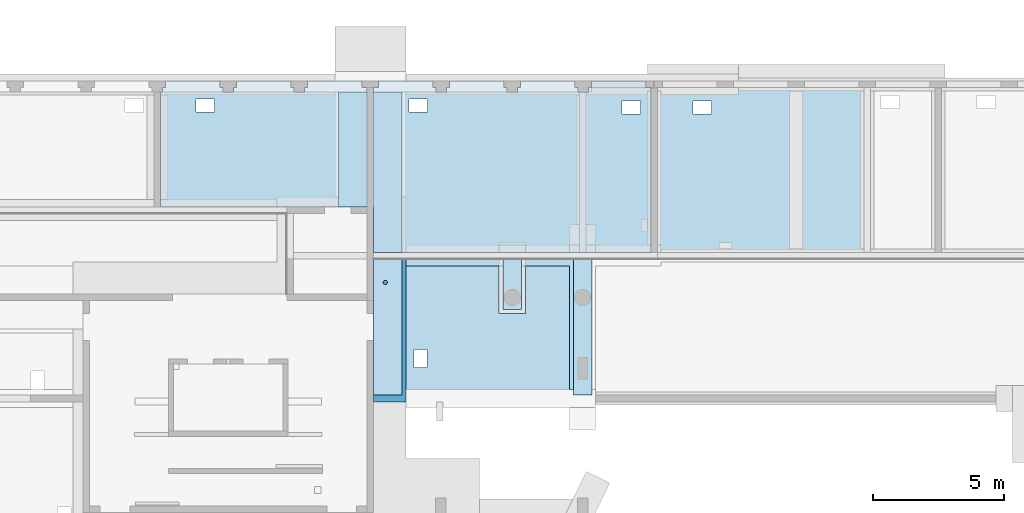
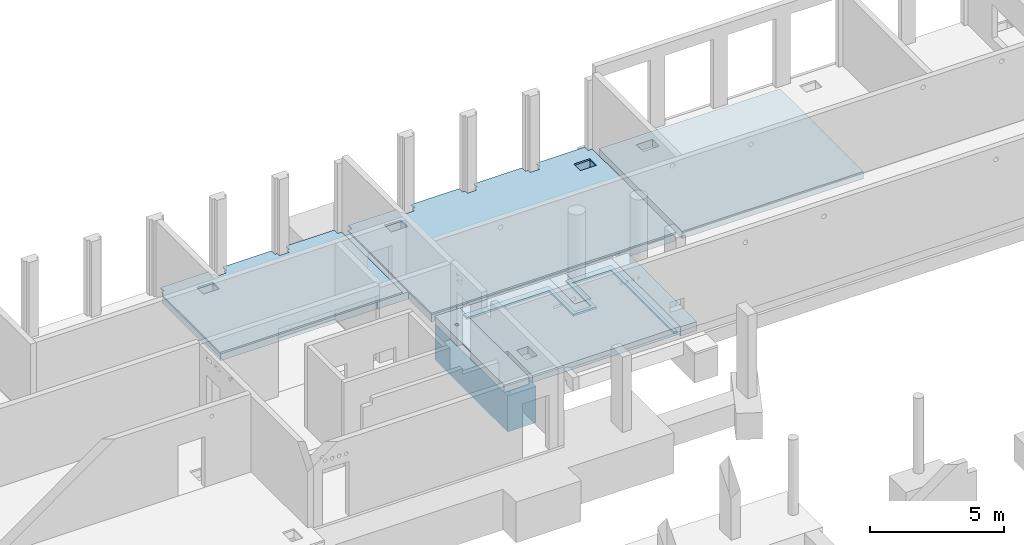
# One storey, part 26 of 60: 13 slabs, 46 openings.
"""IFC2X3 building model written with IfcOpenShell, lengths in millimetres."""

from ifc_helpers import new_model, entity, si_unit, converted_unit, derived_unit, direction, frame, frame_2d, origin, origin_2d_with_axis, place, context, subcontext, project, spatial, polyline, rectangle, circle, outline, extrude, material, layer, layer_set, layer_usage, element, save


model = new_model("IFC2X3")

# Units and contexts
model_context = context("Model", 3, precision=0.01, world=origin(), true_north=direction((6.12303176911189e-17, 1.0)))
body_context = subcontext(model_context, "Body", "Model", "MODEL_VIEW")
ifc_project = project(units=[si_unit("LENGTHUNIT", "METRE", prefix="MILLI"), si_unit("AREAUNIT", "SQUARE_METRE"), si_unit("VOLUMEUNIT", "CUBIC_METRE"), converted_unit("PLANEANGLEUNIT", "DEGREE", entity("IfcRatioMeasure", 0.0174532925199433), si_unit("PLANEANGLEUNIT", "RADIAN"), dimensions=[0, 0, 0, 0, 0, 0, 0]), si_unit("MASSUNIT", "GRAM", prefix="KILO"), derived_unit("MASSDENSITYUNIT", [(si_unit("MASSUNIT", "GRAM", prefix="KILO"), 1), (si_unit("LENGTHUNIT", "METRE"), -3)]), si_unit("TIMEUNIT", "SECOND"), si_unit("FREQUENCYUNIT", "HERTZ"), si_unit("THERMODYNAMICTEMPERATUREUNIT", "DEGREE_CELSIUS"), derived_unit("THERMALTRANSMITTANCEUNIT", [(si_unit("MASSUNIT", "GRAM", prefix="KILO"), 1), (si_unit("THERMODYNAMICTEMPERATUREUNIT", "KELVIN"), -1), (si_unit("TIMEUNIT", "SECOND"), -3)]), derived_unit("VOLUMETRICFLOWRATEUNIT", [(si_unit("LENGTHUNIT", "METRE"), 3), (si_unit("TIMEUNIT", "SECOND"), -1)]), si_unit("ELECTRICCURRENTUNIT", "AMPERE"), si_unit("ELECTRICVOLTAGEUNIT", "VOLT"), si_unit("POWERUNIT", "WATT"), si_unit("FORCEUNIT", "NEWTON", prefix="KILO"), si_unit("ILLUMINANCEUNIT", "LUX"), si_unit("LUMINOUSFLUXUNIT", "LUMEN"), si_unit("LUMINOUSINTENSITYUNIT", "CANDELA"), derived_unit("USERDEFINED", [(si_unit("MASSUNIT", "GRAM", prefix="KILO"), -1), (si_unit("LENGTHUNIT", "METRE"), -2), (si_unit("TIMEUNIT", "SECOND"), 3), (si_unit("LUMINOUSFLUXUNIT", "LUMEN"), 1)]), derived_unit("LINEARVELOCITYUNIT", [(si_unit("LENGTHUNIT", "METRE"), 1), (si_unit("TIMEUNIT", "SECOND"), -1)]), si_unit("PRESSUREUNIT", "PASCAL"), derived_unit("USERDEFINED", [(si_unit("LENGTHUNIT", "METRE"), -2), (si_unit("MASSUNIT", "GRAM", prefix="KILO"), 1), (si_unit("TIMEUNIT", "SECOND"), -2)])], contexts=[model_context])

# Site, building, storey
site_placement = place(None, origin())
site = spatial("IfcSite", under=ifc_project, at=site_placement, Name="Default", CompositionType="ELEMENT")
building_placement = place(site_placement, origin())
building = spatial("IfcBuilding", under=site, at=building_placement, Name="niet gebruiken", CompositionType="ELEMENT")
storey_placement = place(building_placement, origin())
storey = spatial("IfcBuildingStorey", under=building, at=storey_placement, Name="00 begane grond", CompositionType="ELEMENT", Elevation=0.0)

# Slab, openings
ifc_material_1 = material(Name="NLRS_f2_beton ihwg")
ifc_layer_1 = layer(ifc_material_1, 70.0)
ifc_layer_set_1 = layer_set([ifc_layer_1], Name="Floor:NLRS_23.21_FL_druklaag d=70_gen")
ifc_layer_usage_1 = layer_usage(ifc_layer_set_1, "AXIS3", "POSITIVE", 0.0)
slab_1_placement = place(storey_placement, frame((8180.0, 45156.0, -160.0)))
slab_1 = element("IfcSlab", 1, at=slab_1_placement, inside=storey, material=ifc_layer_usage_1, Name="Floor:NLRS_23.21_FL_druklaag d=70_gen:9", ObjectType="Floor:NLRS_23.21_FL_druklaag d=70_gen", PredefinedType="FLOOR", context=body_context, shape_type="SweptSolid", body=[
    extrude(outline(polyline([(22722.500000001, 3640.0), (22722.500000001, 3800.0), (22617.500000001, 3800.0), (22617.500000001, 4050.0), (20537.500000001, 4050.0), (20537.500000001, 3800.0), (20432.500000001, 3800.0), (20432.500000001, 3640.0), (20022.500000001, 3640.0), (20022.500000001, 3800.0), (19917.500000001, 3800.0), (19917.500000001, 4050.0), (17837.500000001, 4050.0), (17837.500000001, 3800.0), (17732.500000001, 3800.0), (17732.500000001, 3640.0), (17322.500000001, 3640.0), (17322.500000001, 3800.0), (17217.500000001, 3800.0), (17217.500000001, 4050.0), (15137.500000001, 4050.0), (15137.500000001, 3800.0), (14952.500000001, 3800.0), (14952.500000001, -730.0), (22802.4999999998, -730.0), (22802.4999999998, 3640.0), (22722.500000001, 3640.0)])), frame((55247.4999999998, 4050.0, 70.0), z_axis=(0.0, 0.0, -1.0), x_axis=(-1.0, 0.0, 0.0)), (0.0, 0.0, 1.0), 70.0),
])
placement_1 = place(storey_placement, frame((8180.0, 45156.0, -160.0)))
placement_2 = place(placement_1, origin())
element("IfcOpeningElement", 2, at=placement_2, cuts=slab_1, ObjectType="Opening", context=body_context, shape_type="SweptSolid", body=[
    extrude(rectangle(XDim=700.000000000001, YDim=499.999999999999, at=origin_2d_with_axis()), frame((1750.0, 7302.50000000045, -380.0), z_axis=(0.0, 0.0, 1.0), x_axis=(-1.0, 0.0, 0.0)), (0.0, 0.0, 1.0), 450.0),
])
placement_3 = place(placement_1, origin())
element("IfcOpeningElement", 3, at=placement_3, cuts=slab_1, ObjectType="Opening", context=body_context, shape_type="SweptSolid", body=[
    extrude(rectangle(XDim=700.000000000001, YDim=499.999999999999, at=origin_2d_with_axis()), frame((4450.0, 7302.50000000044, -380.0), z_axis=(0.0, 0.0, 1.0), x_axis=(-1.0, 0.0, 0.0)), (0.0, 0.0, 1.0), 450.0),
])
placement_4 = place(placement_1, origin())
element("IfcOpeningElement", 4, at=placement_4, cuts=slab_1, ObjectType="Opening", context=body_context, shape_type="SweptSolid", body=[
    extrude(rectangle(XDim=700.000000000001, YDim=499.999999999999, at=origin_2d_with_axis()), frame((12550.0, 7302.50000000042, -380.0), z_axis=(0.0, 0.0, 1.0), x_axis=(-1.0, 0.0, 0.0)), (0.0, 0.0, 1.0), 450.0),
])
placement_5 = place(placement_1, origin())
element("IfcOpeningElement", 5, at=placement_5, cuts=slab_1, ObjectType="Opening", context=body_context, shape_type="SweptSolid", body=[
    extrude(rectangle(XDim=700.000000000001, YDim=499.999999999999, at=origin_2d_with_axis()), frame((15250.0, 7302.50000000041, -380.0), z_axis=(0.0, 0.0, 1.0), x_axis=(-1.0, 0.0, 0.0)), (0.0, 0.0, 1.0), 450.0),
])
placement_6 = place(placement_1, origin())
element("IfcOpeningElement", 6, at=placement_6, cuts=slab_1, ObjectType="Opening", context=body_context, shape_type="SweptSolid", body=[
    extrude(rectangle(XDim=700.000000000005, YDim=499.999999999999, at=origin_2d_with_axis()), frame((42250.0, 7175.0, -380.0), z_axis=(0.0, 0.0, 1.0), x_axis=(-1.0, 0.0, 0.0)), (0.0, 0.0, 1.0), 450.0),
])
placement_7 = place(placement_1, origin())
element("IfcOpeningElement", 7, at=placement_7, cuts=slab_1, ObjectType="Opening", context=body_context, shape_type="SweptSolid", body=[
    extrude(rectangle(XDim=700.000000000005, YDim=499.999999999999, at=origin_2d_with_axis()), frame((50350.0, 7102.50000000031, -380.0), z_axis=(0.0, 0.0, 1.0), x_axis=(-1.0, 0.0, 0.0)), (0.0, 0.0, 1.0), 450.0),
])
placement_8 = place(placement_1, origin())
element("IfcOpeningElement", 8, at=placement_8, cuts=slab_1, ObjectType="Opening", context=body_context, shape_type="SweptSolid", body=[
    extrude(rectangle(XDim=699.999999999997, YDim=499.999999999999, at=origin_2d_with_axis()), frame((53050.0, 7102.50000000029, -380.0), z_axis=(0.0, 0.0, 1.0), x_axis=(-1.0, 0.0, 0.0)), (0.0, 0.0, 1.0), 450.0),
])
placement_9 = place(placement_1, origin())
element("IfcOpeningElement", 9, at=placement_9, cuts=slab_1, ObjectType="Opening", context=body_context, shape_type="SweptSolid", body=[
    extrude(rectangle(XDim=699.999999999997, YDim=499.999999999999, at=origin_2d_with_axis()), frame((60190.0, 7302.50000000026, -380.0), z_axis=(0.0, 0.0, 1.0), x_axis=(-1.0, 0.0, 0.0)), (0.0, 0.0, 1.0), 450.0),
])
placement_10 = place(placement_1, origin())
element("IfcOpeningElement", 10, at=placement_10, cuts=slab_1, ObjectType="Opening", context=body_context, shape_type="SweptSolid", body=[
    extrude(rectangle(XDim=700.000000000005, YDim=499.999999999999, at=origin_2d_with_axis()), frame((63850.0, 7302.50000000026, -380.0), z_axis=(0.0, 0.0, 1.0), x_axis=(-1.0, 0.0, 0.0)), (0.0, 0.0, 1.0), 450.0),
])
placement_11 = place(placement_1, origin())
element("IfcOpeningElement", 11, at=placement_11, cuts=slab_1, ObjectType="Opening", context=body_context, shape_type="SweptSolid", body=[
    extrude(rectangle(XDim=699.999999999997, YDim=499.999999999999, at=origin_2d_with_axis()), frame((90850.0, 7155.0, -380.0), z_axis=(0.0, 0.0, 1.0), x_axis=(-1.0, 0.0, 0.0)), (0.0, 0.0, 1.0), 450.0),
])
placement_12 = place(placement_1, origin())
element("IfcOpeningElement", 12, at=placement_12, cuts=slab_1, ObjectType="Opening", context=body_context, shape_type="SweptSolid", body=[
    extrude(rectangle(XDim=699.999999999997, YDim=499.999999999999, at=origin_2d_with_axis()), frame((97990.0, 7155.0, -380.0), z_axis=(0.0, 0.0, 1.0), x_axis=(-1.0, 0.0, 0.0)), (0.0, 0.0, 1.0), 450.0),
])
placement_13 = place(placement_1, origin())
element("IfcOpeningElement", 13, at=placement_13, cuts=slab_1, ObjectType="Opening", context=body_context, shape_type="SweptSolid", body=[
    extrude(rectangle(XDim=699.999999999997, YDim=499.999999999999, at=origin_2d_with_axis()), frame((101650.0, 7302.50000000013, -380.0), z_axis=(0.0, 0.0, 1.0), x_axis=(-1.0, 0.0, 0.0)), (0.0, 0.0, 1.0), 450.0),
])
placement_14 = place(placement_1, origin())
element("IfcOpeningElement", 14, at=placement_14, cuts=slab_1, ObjectType="Opening", context=body_context, shape_type="SweptSolid", body=[
    extrude(rectangle(XDim=699.999999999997, YDim=499.999999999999, at=origin_2d_with_axis()), frame((109750.0, 7302.50000000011, -380.0), z_axis=(0.0, 0.0, 1.0), x_axis=(-1.0, 0.0, 0.0)), (0.0, 0.0, 1.0), 450.0),
])
placement_15 = place(placement_1, origin())
element("IfcOpeningElement", 15, at=placement_15, cuts=slab_1, ObjectType="Opening", context=body_context, shape_type="SweptSolid", body=[
    extrude(rectangle(XDim=699.999999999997, YDim=499.999999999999, at=origin_2d_with_axis()), frame((112450.0, 7302.5000000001, -380.0), z_axis=(0.0, 0.0, 1.0), x_axis=(-1.0, 0.0, 0.0)), (0.0, 0.0, 1.0), 450.0),
])
placement_16 = place(placement_1, origin())
element("IfcOpeningElement", 16, at=placement_16, cuts=slab_1, ObjectType="Opening", context=body_context, shape_type="SweptSolid", body=[
    extrude(rectangle(XDim=700.000000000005, YDim=499.999999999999, at=origin_2d_with_axis()), frame((31450.0, 7175.0, -380.0), z_axis=(0.0, 0.0, 1.0), x_axis=(-1.0, 0.0, 0.0)), (0.0, 0.0, 1.0), 450.0),
])
placement_17 = place(placement_1, origin())
element("IfcOpeningElement", 17, at=placement_17, cuts=slab_1, ObjectType="Opening", context=body_context, shape_type="SweptSolid", body=[
    extrude(rectangle(XDim=700.000000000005, YDim=499.999999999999, at=origin_2d_with_axis()), frame((34150.0, 7175.0, -380.0), z_axis=(0.0, 0.0, 1.0), x_axis=(-1.0, 0.0, 0.0)), (0.0, 0.0, 1.0), 450.0),
])
placement_18 = place(placement_1, origin())
element("IfcOpeningElement", 18, at=placement_18, cuts=slab_1, ObjectType="Opening", context=body_context, shape_type="SweptSolid", body=[
    extrude(rectangle(XDim=699.999999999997, YDim=499.999999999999, at=origin_2d_with_axis()), frame((82750.0, 7175.0, -380.0), z_axis=(0.0, 0.0, 1.0), x_axis=(-1.0, 0.0, 0.0)), (0.0, 0.0, 1.0), 450.0),
])
placement_19 = place(placement_1, origin())
element("IfcOpeningElement", 19, at=placement_19, cuts=slab_1, ObjectType="Opening", context=body_context, shape_type="SweptSolid", body=[
    extrude(rectangle(XDim=699.999999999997, YDim=499.999999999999, at=origin_2d_with_axis()), frame((80050.0, 7175.0, -380.0), z_axis=(0.0, 0.0, 1.0), x_axis=(-1.0, 0.0, 0.0)), (0.0, 0.0, 1.0), 450.0),
])
placement_20 = place(placement_1, origin())
element("IfcOpeningElement", 20, at=placement_20, cuts=slab_1, ObjectType="Opening", context=body_context, shape_type="SweptSolid", body=[
    extrude(rectangle(XDim=700.000000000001, YDim=499.999999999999, at=origin_2d_with_axis()), frame((19739.8230847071, 7129.78918001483, -380.0), z_axis=(0.0, 0.0, 1.0), x_axis=(-1.0, 0.0, 0.0)), (0.0, 0.0, 1.0), 450.0),
])

slab_2_placement = place(storey_placement, frame((8180.0, 45156.0, -160.0)))
slab_2 = element("IfcSlab", 21, at=slab_2_placement, inside=storey, material=ifc_layer_usage_1, Name="Floor:NLRS_23.21_FL_druklaag d=70_gen:10", ObjectType="Floor:NLRS_23.21_FL_druklaag d=70_gen", PredefinedType="FLOOR", context=body_context, shape_type="SweptSolid", body=[
    extrude(outline(polyline([(14517.500000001, 3800.0), (14517.500000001, 4050.0), (12437.500000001, 4050.0), (12437.500000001, 3800.0), (12332.5000000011, 3800.0), (12332.5000000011, 3640.0), (11922.500000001, 3640.0), (11922.500000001, 3800.0), (11817.500000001, 3800.0), (11817.500000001, 4050.0), (9737.50000000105, 4050.0), (9737.50000000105, 3800.0), (9632.50000000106, 3800.0), (9632.50000000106, 3640.0), (9222.50000000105, 3640.0), (9222.50000000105, 3800.0), (9117.50000000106, 3800.0), (9117.50000000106, 4050.0), (7037.50000000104, 4050.0), (7037.50000000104, 3800.0), (6932.50000000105, 3800.0), (6932.50000000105, 3640.0), (6522.50000000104, 3640.0), (6522.50000000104, 3800.0), (6417.50000000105, 3800.0), (6417.50000000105, 4050.0), (4337.50000000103, 4050.0), (4337.50000000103, 3800.0), (4152.50000000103, 3800.0), (4152.50000000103, -2460.0), (14702.500000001, -2460.0), (14702.500000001, 3800.0), (14517.500000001, 3800.0)])), frame((55247.4999999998, 4050.0, 70.0), z_axis=(0.0, 0.0, -1.0), x_axis=(-1.0, 0.0, 0.0)), (0.0, 0.0, 1.0), 70.0),
])
element("IfcOpeningElement", 22, at=placement_2, cuts=slab_2, ObjectType="Opening", context=body_context, shape_type="SweptSolid", body=[
    extrude(rectangle(XDim=700.000000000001, YDim=499.999999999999, at=origin_2d_with_axis()), frame((1750.0, 7302.50000000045, -380.0), z_axis=(0.0, 0.0, 1.0), x_axis=(-1.0, 0.0, 0.0)), (0.0, 0.0, 1.0), 450.0),
])
element("IfcOpeningElement", 23, at=placement_3, cuts=slab_2, ObjectType="Opening", context=body_context, shape_type="SweptSolid", body=[
    extrude(rectangle(XDim=700.000000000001, YDim=499.999999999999, at=origin_2d_with_axis()), frame((4450.0, 7302.50000000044, -380.0), z_axis=(0.0, 0.0, 1.0), x_axis=(-1.0, 0.0, 0.0)), (0.0, 0.0, 1.0), 450.0),
])
element("IfcOpeningElement", 24, at=placement_4, cuts=slab_2, ObjectType="Opening", context=body_context, shape_type="SweptSolid", body=[
    extrude(rectangle(XDim=700.000000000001, YDim=499.999999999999, at=origin_2d_with_axis()), frame((12550.0, 7302.50000000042, -380.0), z_axis=(0.0, 0.0, 1.0), x_axis=(-1.0, 0.0, 0.0)), (0.0, 0.0, 1.0), 450.0),
])
element("IfcOpeningElement", 25, at=placement_5, cuts=slab_2, ObjectType="Opening", context=body_context, shape_type="SweptSolid", body=[
    extrude(rectangle(XDim=700.000000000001, YDim=499.999999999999, at=origin_2d_with_axis()), frame((15250.0, 7302.50000000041, -380.0), z_axis=(0.0, 0.0, 1.0), x_axis=(-1.0, 0.0, 0.0)), (0.0, 0.0, 1.0), 450.0),
])
element("IfcOpeningElement", 26, at=placement_6, cuts=slab_2, ObjectType="Opening", context=body_context, shape_type="SweptSolid", body=[
    extrude(rectangle(XDim=700.000000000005, YDim=499.999999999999, at=origin_2d_with_axis()), frame((42250.0, 7175.0, -380.0), z_axis=(0.0, 0.0, 1.0), x_axis=(-1.0, 0.0, 0.0)), (0.0, 0.0, 1.0), 450.0),
])
element("IfcOpeningElement", 27, at=placement_7, cuts=slab_2, ObjectType="Opening", context=body_context, shape_type="SweptSolid", body=[
    extrude(rectangle(XDim=700.000000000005, YDim=499.999999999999, at=origin_2d_with_axis()), frame((50350.0, 7102.50000000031, -380.0), z_axis=(0.0, 0.0, 1.0), x_axis=(-1.0, 0.0, 0.0)), (0.0, 0.0, 1.0), 450.0),
])
element("IfcOpeningElement", 28, at=placement_8, cuts=slab_2, ObjectType="Opening", context=body_context, shape_type="SweptSolid", body=[
    extrude(rectangle(XDim=699.999999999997, YDim=499.999999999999, at=origin_2d_with_axis()), frame((53050.0, 7102.50000000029, -380.0), z_axis=(0.0, 0.0, 1.0), x_axis=(-1.0, 0.0, 0.0)), (0.0, 0.0, 1.0), 450.0),
])
element("IfcOpeningElement", 29, at=placement_9, cuts=slab_2, ObjectType="Opening", context=body_context, shape_type="SweptSolid", body=[
    extrude(rectangle(XDim=699.999999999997, YDim=499.999999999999, at=origin_2d_with_axis()), frame((60190.0, 7302.50000000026, -380.0), z_axis=(0.0, 0.0, 1.0), x_axis=(-1.0, 0.0, 0.0)), (0.0, 0.0, 1.0), 450.0),
])
element("IfcOpeningElement", 30, at=placement_10, cuts=slab_2, ObjectType="Opening", context=body_context, shape_type="SweptSolid", body=[
    extrude(rectangle(XDim=700.000000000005, YDim=499.999999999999, at=origin_2d_with_axis()), frame((63850.0, 7302.50000000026, -380.0), z_axis=(0.0, 0.0, 1.0), x_axis=(-1.0, 0.0, 0.0)), (0.0, 0.0, 1.0), 450.0),
])
element("IfcOpeningElement", 31, at=placement_11, cuts=slab_2, ObjectType="Opening", context=body_context, shape_type="SweptSolid", body=[
    extrude(rectangle(XDim=699.999999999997, YDim=499.999999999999, at=origin_2d_with_axis()), frame((90850.0, 7155.0, -380.0), z_axis=(0.0, 0.0, 1.0), x_axis=(-1.0, 0.0, 0.0)), (0.0, 0.0, 1.0), 450.0),
])
element("IfcOpeningElement", 32, at=placement_12, cuts=slab_2, ObjectType="Opening", context=body_context, shape_type="SweptSolid", body=[
    extrude(rectangle(XDim=699.999999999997, YDim=499.999999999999, at=origin_2d_with_axis()), frame((97990.0, 7155.0, -380.0), z_axis=(0.0, 0.0, 1.0), x_axis=(-1.0, 0.0, 0.0)), (0.0, 0.0, 1.0), 450.0),
])
element("IfcOpeningElement", 33, at=placement_13, cuts=slab_2, ObjectType="Opening", context=body_context, shape_type="SweptSolid", body=[
    extrude(rectangle(XDim=699.999999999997, YDim=499.999999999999, at=origin_2d_with_axis()), frame((101650.0, 7302.50000000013, -380.0), z_axis=(0.0, 0.0, 1.0), x_axis=(-1.0, 0.0, 0.0)), (0.0, 0.0, 1.0), 450.0),
])
element("IfcOpeningElement", 34, at=placement_14, cuts=slab_2, ObjectType="Opening", context=body_context, shape_type="SweptSolid", body=[
    extrude(rectangle(XDim=699.999999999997, YDim=499.999999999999, at=origin_2d_with_axis()), frame((109750.0, 7302.50000000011, -380.0), z_axis=(0.0, 0.0, 1.0), x_axis=(-1.0, 0.0, 0.0)), (0.0, 0.0, 1.0), 450.0),
])
element("IfcOpeningElement", 35, at=placement_15, cuts=slab_2, ObjectType="Opening", context=body_context, shape_type="SweptSolid", body=[
    extrude(rectangle(XDim=699.999999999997, YDim=499.999999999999, at=origin_2d_with_axis()), frame((112450.0, 7302.5000000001, -380.0), z_axis=(0.0, 0.0, 1.0), x_axis=(-1.0, 0.0, 0.0)), (0.0, 0.0, 1.0), 450.0),
])
element("IfcOpeningElement", 36, at=placement_16, cuts=slab_2, ObjectType="Opening", context=body_context, shape_type="SweptSolid", body=[
    extrude(rectangle(XDim=700.000000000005, YDim=499.999999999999, at=origin_2d_with_axis()), frame((31450.0, 7175.0, -380.0), z_axis=(0.0, 0.0, 1.0), x_axis=(-1.0, 0.0, 0.0)), (0.0, 0.0, 1.0), 450.0),
])
element("IfcOpeningElement", 37, at=placement_17, cuts=slab_2, ObjectType="Opening", context=body_context, shape_type="SweptSolid", body=[
    extrude(rectangle(XDim=700.000000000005, YDim=499.999999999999, at=origin_2d_with_axis()), frame((34150.0, 7175.0, -380.0), z_axis=(0.0, 0.0, 1.0), x_axis=(-1.0, 0.0, 0.0)), (0.0, 0.0, 1.0), 450.0),
])
element("IfcOpeningElement", 38, at=placement_18, cuts=slab_2, ObjectType="Opening", context=body_context, shape_type="SweptSolid", body=[
    extrude(rectangle(XDim=699.999999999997, YDim=499.999999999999, at=origin_2d_with_axis()), frame((82750.0, 7175.0, -380.0), z_axis=(0.0, 0.0, 1.0), x_axis=(-1.0, 0.0, 0.0)), (0.0, 0.0, 1.0), 450.0),
])
element("IfcOpeningElement", 39, at=placement_19, cuts=slab_2, ObjectType="Opening", context=body_context, shape_type="SweptSolid", body=[
    extrude(rectangle(XDim=699.999999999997, YDim=499.999999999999, at=origin_2d_with_axis()), frame((80050.0, 7175.0, -380.0), z_axis=(0.0, 0.0, 1.0), x_axis=(-1.0, 0.0, 0.0)), (0.0, 0.0, 1.0), 450.0),
])
element("IfcOpeningElement", 40, at=placement_20, cuts=slab_2, ObjectType="Opening", context=body_context, shape_type="SweptSolid", body=[
    extrude(rectangle(XDim=700.000000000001, YDim=499.999999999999, at=origin_2d_with_axis()), frame((19739.8230847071, 7129.78918001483, -380.0), z_axis=(0.0, 0.0, 1.0), x_axis=(-1.0, 0.0, 0.0)), (0.0, 0.0, 1.0), 450.0),
])

# Slab, opening
ifc_material_2 = material(Name="NLRS_f2_beton prefab")
ifc_layer_2 = layer(ifc_material_2, 200.0)
ifc_material_3 = material(Name="NLRS_n7_isolatie EPS")
ifc_layer_3 = layer(ifc_material_3, 132.0)
ifc_layer_set_2 = layer_set([ifc_layer_2, ifc_layer_3], Name="Floor:NLRS_23.21_FL_geisoleerde kanaalplaat d=200 rc 3.5 iso132_gen")
ifc_layer_usage_2 = layer_usage(ifc_layer_set_2, "AXIS3", "POSITIVE", 0.0)
slab_3_placement = place(storey_placement, frame((56820.0, 46766.0, -492.0)))
slab_3 = element("IfcSlab", 41, at=slab_3_placement, inside=storey, material=ifc_layer_usage_2, Name="Floor:NLRS_23.21_FL_geisoleerde kanaalplaat d=200 rc 3.5 iso132_gen", ObjectType="Floor:NLRS_23.21_FL_geisoleerde kanaalplaat d=200 rc 3.5 iso132_gen", PredefinedType="FLOOR", context=body_context, shape_type="SweptSolid", body=[
    extrude(outline(polyline([(1217.50000000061, 2950.0), (1007.50000000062, 2950.0), (1007.50000000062, 3110.0), (-1217.50000000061, 3110.0), (-1217.50000000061, -3110.0), (1217.50000000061, -3110.0), (1217.50000000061, 2950.0)])), frame((1217.50000000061, 3110.0, 332.0), z_axis=(0.0, 0.0, -1.0), x_axis=(-1.0, 0.0, 0.0)), (0.0, 0.0, 1.0), 332.0),
])
opening_39_placement = place(slab_3_placement, origin())
element("IfcOpeningElement", 42, at=opening_39_placement, cuts=slab_3, ObjectType="Opening", context=body_context, shape_type="SweptSolid", body=[
    extrude(rectangle(XDim=700.000000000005, YDim=499.999999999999, at=origin_2d_with_axis()), frame((1710.0, 5492.50000000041, -48.0), z_axis=(0.0, 0.0, 1.0), x_axis=(-1.0, 0.0, 0.0)), (0.0, 0.0, 1.0), 450.0),
])

ifc_layer_usage_3 = layer_usage(ifc_layer_set_2, "AXIS3", "POSITIVE", 0.0)
slab_4_placement = place(storey_placement, frame((59545.0, 46766.0, -492.0)))
slab_4 = element("IfcSlab", 43, at=slab_4_placement, inside=storey, material=ifc_layer_usage_3, Name="Floor:NLRS_23.21_FL_geisoleerde kanaalplaat d=200 rc 3.5 iso132_gen", ObjectType="Floor:NLRS_23.21_FL_geisoleerde kanaalplaat d=200 rc 3.5 iso132_gen", PredefinedType="FLOOR", context=body_context, shape_type="SweptSolid", body=[
    extrude(rectangle(XDim=6220.00000000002, YDim=7809.99999999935, at=frame_2d((0.0, 0.0), x_axis=(0.0, -1.0))), frame((3905.0, 3110.0, 332.0), z_axis=(0.0, 0.0, -1.0), x_axis=(-1.0, 0.0, 0.0)), (0.0, 0.0, 1.0), 332.0),
])
opening_40_placement = place(slab_4_placement, origin())
element("IfcOpeningElement", 44, at=opening_40_placement, cuts=slab_4, ObjectType="Opening", context=body_context, shape_type="SweptSolid", body=[
    extrude(rectangle(XDim=699.999999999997, YDim=499.999999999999, at=origin_2d_with_axis()), frame((1685.0, 5492.50000000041, -48.0), z_axis=(0.0, 0.0, 1.0), x_axis=(-1.0, 0.0, 0.0)), (0.0, 0.0, 1.0), 450.0),
])

ifc_layer_usage_4 = layer_usage(ifc_layer_set_2, "AXIS3", "POSITIVE", 0.0)
slab_5_placement = place(storey_placement, frame((40645.0, 48496.0, -492.0)))
slab_5 = element("IfcSlab", 45, at=slab_5_placement, inside=storey, material=ifc_layer_usage_4, Name="Floor:NLRS_23.21_FL_geisoleerde kanaalplaat d=200 rc 3.5 iso132_gen", ObjectType="Floor:NLRS_23.21_FL_geisoleerde kanaalplaat d=200 rc 3.5 iso132_gen", PredefinedType="FLOOR", context=body_context, shape_type="SweptSolid", body=[
    extrude(rectangle(XDim=4329.99999999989, YDim=6754.99999999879, at=frame_2d((0.0, 0.0), x_axis=(0.0, -1.0))), frame((3377.4999999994, 2165.0, 332.0), z_axis=(0.0, 0.0, -1.0), x_axis=(-1.0, 0.0, 0.0)), (0.0, 0.0, 1.0), 332.0),
])
opening_41_placement = place(slab_5_placement, origin())
element("IfcOpeningElement", 46, at=opening_41_placement, cuts=slab_5, ObjectType="Opening", context=body_context, shape_type="SweptSolid", body=[
    extrude(rectangle(XDim=700.000000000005, YDim=499.999999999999, at=origin_2d_with_axis()), frame((1685.0, 3835.0, -48.0), z_axis=(0.0, 0.0, 1.0), x_axis=(-1.0, 0.0, 0.0)), (0.0, 0.0, 1.0), 450.0),
])

ifc_layer_usage_5 = layer_usage(ifc_layer_set_2, "AXIS3", "POSITIVE", 0.0)
slab_6_placement = place(storey_placement, frame((49800.0, 41331.0, -402.0)))
slab_6 = element("IfcSlab", 47, at=slab_6_placement, inside=storey, material=ifc_layer_usage_5, Name="Floor:NLRS_23.21_FL_geisoleerde kanaalplaat d=200 rc 3.5 iso132_gen", ObjectType="Floor:NLRS_23.21_FL_geisoleerde kanaalplaat d=200 rc 3.5 iso132_gen", PredefinedType="FLOOR", context=body_context, shape_type="SweptSolid", body=[
    extrude(outline(polyline([(8975.0, 2572.49999999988), (8975.0, 667.499999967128), (8275.0, 667.499999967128), (8275.0, 2572.49999999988), (6300.0, 2572.49999999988), (6300.0, -2572.49999999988), (12675.0, -2572.49999999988), (12675.0, -748.097839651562), (12825.0, -748.097839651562), (12825.0, 2572.49999999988), (8975.0, 2572.49999999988)])), frame((12825.0, 2572.49999999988, 332.0), z_axis=(0.0, 0.0, -1.0), x_axis=(-1.0, 0.0, 0.0)), (0.0, 0.0, 1.0), 332.0),
])
opening_42_placement = place(slab_6_placement, origin())
element("IfcOpeningElement", 48, at=opening_42_placement, cuts=slab_6, ObjectType="Opening", context=body_context, shape_type="SweptSolid", body=[
    extrude(rectangle(XDim=700.000000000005, YDim=499.999999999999, at=origin_2d_with_axis()), frame((709.9895580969, 1375.00073239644, -48.0), z_axis=(0.0, 0.0, 1.0), x_axis=(0.0, -1.0, 0.0)), (0.0, 0.0, 1.0), 450.0),
])

ifc_layer_usage_6 = layer_usage(ifc_layer_set_2, "AXIS3", "POSITIVE", 0.0)
slab_7_placement = place(storey_placement, frame((49800.0, 46766.0, -492.0)))
slab_7 = element("IfcSlab", 49, at=slab_7_placement, inside=storey, material=ifc_layer_usage_6, Name="Floor:NLRS_23.21_FL_geisoleerde kanaalplaat d=200 rc 3.5 iso132_gen", ObjectType="Floor:NLRS_23.21_FL_geisoleerde kanaalplaat d=200 rc 3.5 iso132_gen", PredefinedType="FLOOR", context=body_context, shape_type="SweptSolid", body=[
    extrude(rectangle(XDim=6729.99999999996, YDim=6060.00000000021, at=frame_2d((0.0, 0.0), x_axis=(-1.0, 0.0))), frame((3365.0, 3030.0, 332.0), z_axis=(0.0, 0.0, -1.0), x_axis=(-1.0, 0.0, 0.0)), (0.0, 0.0, 1.0), 332.0),
])
opening_43_placement = place(slab_7_placement, origin())
element("IfcOpeningElement", 50, at=opening_43_placement, cuts=slab_7, ObjectType="Opening", context=body_context, shape_type="SweptSolid", body=[
    extrude(rectangle(XDim=700.000000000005, YDim=499.999999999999, at=origin_2d_with_axis()), frame((630.0, 5565.0, -48.0), z_axis=(0.0, 0.0, 1.0), x_axis=(-1.0, 0.0, 0.0)), (0.0, 0.0, 1.0), 450.0),
])

# Slab, openings
ifc_layer_4 = layer(ifc_material_1, 1648.0)
ifc_layer_set_3 = layer_set([ifc_layer_4], Name="Floor:NLRS_13.22_FL_beton ihwg d=1648")
ifc_layer_usage_7 = layer_usage(ifc_layer_set_3, "AXIS3", "POSITIVE", 0.0)
slab_8_placement = place(storey_placement, frame((48725.0, 41061.0, -2050.0)))
slab_8 = element("IfcSlab", 51, at=slab_8_placement, inside=storey, material=ifc_layer_usage_7, Name="Floor:NLRS_13.22_FL_beton ihwg d=1648", ObjectType="Floor:NLRS_13.22_FL_beton ihwg d=1648", PredefinedType="BASESLAB", context=body_context, shape_type="SweptSolid", body=[
    extrude(rectangle(XDim=1224.9999999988, YDim=5434.99999999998, at=origin_2d_with_axis()), frame((612.499999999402, 2717.49999999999, 1648.0), z_axis=(0.0, 0.0, -1.0), x_axis=(-1.0, 0.0, 0.0)), (0.0, 0.0, 1.0), 1648.0),
])
opening_44_placement = place(slab_8_placement, origin())
element("IfcOpeningElement", 52, at=opening_44_placement, cuts=slab_8, ObjectType="Opening", context=body_context, shape_type="SweptSolid", body=[
    extrude(circle(Radius=80.0, at=origin_2d_with_axis()), frame((365.0, 4540.57249999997, 1360.0), z_axis=(1.0, 0.0, 0.0), x_axis=(0.0, 1.0, 0.0)), (0.0, 0.0, 1.0), 860.000000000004),
])
opening_45_placement = place(slab_8_placement, origin())
element("IfcOpeningElement", 53, at=opening_45_placement, cuts=slab_8, ObjectType="Opening", context=body_context, shape_type="SweptSolid", body=[
    extrude(circle(Radius=80.0, at=origin_2d_with_axis()), frame((445.166666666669, 4540.57249999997, 1280.0), z_axis=(0.0, 0.0, 1.0), x_axis=(0.0, 1.0, 0.0)), (0.0, 0.0, 1.0), 770.0),
])

# Slab, opening
ifc_layer_5 = layer(ifc_material_1, 332.0)
ifc_layer_set_4 = layer_set([ifc_layer_5], Name="Floor:NLRS_13.22_FL_beton ihwg d=332_gen")
ifc_layer_usage_8 = layer_usage(ifc_layer_set_4, "AXIS3", "POSITIVE", 0.0)
slab_9_placement = place(storey_placement, frame((48725.0, 41311.0, -402.0)))
slab_9 = element("IfcSlab", 54, at=slab_9_placement, inside=storey, material=ifc_layer_usage_8, Name="Floor:NLRS_13.22_FL_beton ihwg d=332_gen", ObjectType="Floor:NLRS_13.22_FL_beton ihwg d=332_gen", PredefinedType="FLOOR", context=body_context, shape_type="SweptSolid", body=[
    extrude(rectangle(XDim=1074.99999999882, YDim=5184.99999999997, at=origin_2d_with_axis()), frame((537.49999999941, 2592.49999999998, 332.0), z_axis=(0.0, 0.0, -1.0), x_axis=(-1.0, 0.0, 0.0)), (0.0, 0.0, 1.0), 332.0),
])
opening_46_placement = place(slab_9_placement, origin())
element("IfcOpeningElement", 55, at=opening_46_placement, cuts=slab_9, ObjectType="Opening", context=body_context, shape_type="SweptSolid", body=[
    extrude(circle(Radius=80.0, at=origin_2d_with_axis()), frame((445.166666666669, 4290.57249999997, -368.0), z_axis=(0.0, 0.0, 1.0), x_axis=(0.0, 1.0, 0.0)), (0.0, 0.0, 1.0), 770.0),
])

# Slabs
ifc_layer_6 = layer(ifc_material_1, 90.0)
ifc_layer_set_5 = layer_set([ifc_layer_6], Name="Floor:NLRS_23.21_FL_beton ihwg d=90_gen")
ifc_layer_usage_9 = layer_usage(ifc_layer_set_5, "AXIS3", "POSITIVE", 0.0)
slab_10_placement = place(storey_placement, frame((49950.0, 40004.0, -492.0)))
element("IfcSlab", 56, at=slab_10_placement, inside=storey, material=ifc_layer_usage_9, Name="Floor:NLRS_23.21_FL_beton ihwg d=90_gen", ObjectType="Floor:NLRS_23.21_FL_beton ihwg d=90_gen", PredefinedType="FLOOR", context=body_context, shape_type="SweptSolid", body=[
    extrude(outline(polyline([(12750.0, 2971.0), (12750.0, 3246.0), (9050.0, 3246.0), (9050.0, 1321.0), (8350.0, 1321.0), (8350.0, 3246.0), (6375.0, 3246.0), (6375.0, -1714.0), (6525.0, -1714.0), (6525.0, 2971.0), (8200.0, 2971.0), (8200.0, 1171.0), (9200.0, 1171.0), (9200.0, 2971.0), (12750.0, 2971.0)])), frame((12750.0, 3246.0, 90.0), z_axis=(0.0, 0.0, -1.0), x_axis=(-1.0, 0.0, 0.0)), (0.0, 0.0, 1.0), 90.0),
])
ifc_layer_usage_10 = layer_usage(ifc_layer_set_4, "AXIS3", "POSITIVE", 0.0)
slab_11_placement = place(storey_placement, origin())
element("IfcSlab", 57, at=slab_11_placement, inside=storey, material=ifc_layer_usage_10, Name="Floor:NLRS_13.22_FL_beton ihwg d=332_gen", ObjectType="Floor:NLRS_13.22_FL_beton ihwg d=332_gen", PredefinedType="FLOOR", context=body_context, shape_type="SweptSolid", body=[
    extrude(outline(polyline([(-880.0, -1241.66666666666), (3490.0, -1241.66666666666), (3490.0, 1158.33333333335), (-2610.0, 1158.33333333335), (-2610.0, 83.3333333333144), (-880.0, 83.3333333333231), (-880.0, -1241.66666666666)])), frame((48641.6666666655, 49356.0, -160.0), z_axis=(0.0, 0.0, -1.0), x_axis=(0.0, 1.0, 0.0)), (0.0, 0.0, 1.0), 332.0),
])
ifc_layer_7 = layer(ifc_material_1, 422.0)
ifc_layer_set_6 = layer_set([ifc_layer_7], Name="Floor:NLRS_13.22_FL_beton ihwg d=422_ge")
ifc_layer_usage_11 = layer_usage(ifc_layer_set_6, "AXIS3", "POSITIVE", 0.0)
slab_12_placement = place(storey_placement, frame((53650.0, 41311.0, -492.0)))
element("IfcSlab", 58, at=slab_12_placement, inside=storey, material=ifc_layer_usage_11, Name="Floor:NLRS_13.22_FL_beton ihwg d=422_ge", ObjectType="Floor:NLRS_13.22_FL_beton ihwg d=422_ge", PredefinedType="FLOOR", context=body_context, shape_type="SweptSolid", body=[
    extrude(rectangle(XDim=699.999999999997, YDim=1905.00000003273, at=frame_2d((1337.49999995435, 1630.0), x_axis=(1.0, 0.0))), frame((1687.49999995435, 2582.50000000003, 422.0), z_axis=(0.0, 0.0, -1.0), x_axis=(-1.0, 0.0, 0.0)), (0.0, 0.0, 1.0), 422.0),
])
slab_13_placement = place(storey_placement, frame((53650.0, 41311.0, -492.0)))
element("IfcSlab", 59, at=slab_13_placement, inside=storey, material=ifc_layer_usage_11, Name="Floor:NLRS_13.22_FL_beton ihwg d=422_ge:2", ObjectType="Floor:NLRS_13.22_FL_beton ihwg d=422_ge", PredefinedType="FLOOR", context=body_context, shape_type="SweptSolid", body=[
    extrude(rectangle(XDim=5165.00000000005, YDim=700.000000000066, at=frame_2d((-1337.49999993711, 0.0), x_axis=(0.0, -1.0))), frame((1687.49999995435, 2582.50000000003, 422.0), z_axis=(0.0, 0.0, -1.0), x_axis=(-1.0, 0.0, 0.0)), (0.0, 0.0, 1.0), 422.0),
])

save(model, "model.ifc")
